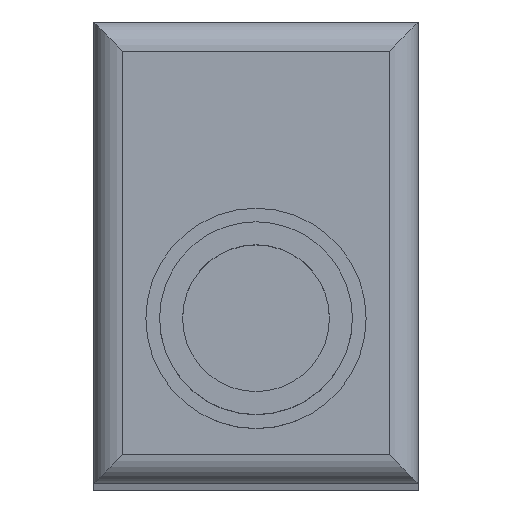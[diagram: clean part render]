
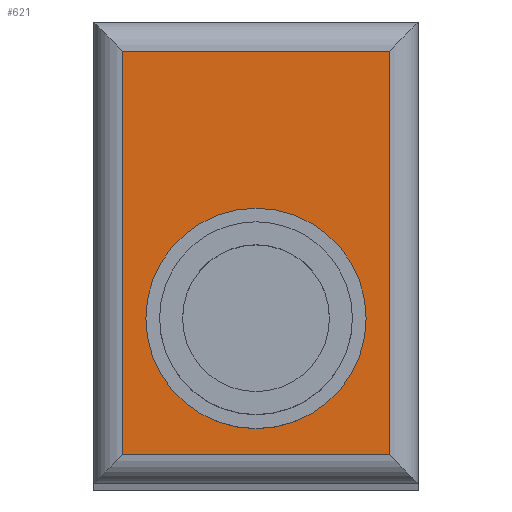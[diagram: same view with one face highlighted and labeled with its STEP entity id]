
A CAD part, top view. The second image highlights one B-rep face of the part: STEP entity #621.
In plain terms, the highlighted planar face has unit normal (0, 0, 1).
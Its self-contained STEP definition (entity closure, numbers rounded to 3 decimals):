
#81=DIRECTION('',(0.,-1.,0.));
#82=VECTOR('',#81,21.95);
#83=CARTESIAN_POINT('',(-7.25,10.975,99.));
#84=LINE('',#83,#82);
#100=DIRECTION('',(-1.,0.,0.));
#101=VECTOR('',#100,14.5);
#102=CARTESIAN_POINT('',(7.25,10.975,99.));
#103=LINE('',#102,#101);
#180=DIRECTION('',(1.,0.,0.));
#181=VECTOR('',#180,14.5);
#182=CARTESIAN_POINT('',(-7.25,-10.975,99.));
#183=LINE('',#182,#181);
#199=CARTESIAN_POINT('',(0.,-3.575,99.));
#200=DIRECTION('',(0.,0.,1.));
#201=DIRECTION('',(0.,-1.,0.));
#202=AXIS2_PLACEMENT_3D('',#199,#200,#201);
#204=CARTESIAN_POINT('',(0.,-3.575,99.));
#205=DIRECTION('',(0.,0.,1.));
#206=DIRECTION('',(0.,1.,0.));
#207=AXIS2_PLACEMENT_3D('',#204,#205,#206);
#209=DIRECTION('',(0.,1.,0.));
#210=VECTOR('',#209,21.95);
#211=CARTESIAN_POINT('',(7.25,-10.975,99.));
#212=LINE('',#211,#210);
#314=CARTESIAN_POINT('',(-7.25,10.975,99.));
#315=CARTESIAN_POINT('',(-7.25,-10.975,99.));
#316=VERTEX_POINT('',#314);
#317=VERTEX_POINT('',#315);
#318=CARTESIAN_POINT('',(7.25,-10.975,99.));
#319=VERTEX_POINT('',#318);
#322=CARTESIAN_POINT('',(7.25,10.975,99.));
#323=VERTEX_POINT('',#322);
#378=CARTESIAN_POINT('',(0.,-9.575,99.));
#379=CARTESIAN_POINT('',(0.,2.425,99.));
#380=VERTEX_POINT('',#378);
#381=VERTEX_POINT('',#379);
#603=CARTESIAN_POINT('',(0.,0.,99.));
#604=DIRECTION('',(0.,0.,1.));
#605=DIRECTION('',(1.,0.,0.));
#606=AXIS2_PLACEMENT_3D('',#603,#604,#605);
#607=PLANE('',#606);
#608=ORIENTED_EDGE('',*,*,#502,.F.);
#609=ORIENTED_EDGE('',*,*,#518,.F.);
#611=ORIENTED_EDGE('',*,*,#610,.F.);
#612=ORIENTED_EDGE('',*,*,#594,.F.);
#613=EDGE_LOOP('',(#608,#609,#611,#612));
#614=FACE_OUTER_BOUND('',#613,.F.);
#616=ORIENTED_EDGE('',*,*,#615,.T.);
#618=ORIENTED_EDGE('',*,*,#617,.T.);
#619=EDGE_LOOP('',(#616,#618));
#620=FACE_BOUND('',#619,.F.);
#621=ADVANCED_FACE('',(#614,#620),#607,.T.);
#203=CIRCLE('',#202,6.);
#208=CIRCLE('',#207,6.);
#502=EDGE_CURVE('',#316,#317,#84,.T.);
#518=EDGE_CURVE('',#323,#316,#103,.T.);
#594=EDGE_CURVE('',#317,#319,#183,.T.);
#610=EDGE_CURVE('',#319,#323,#212,.T.);
#615=EDGE_CURVE('',#380,#381,#203,.T.);
#617=EDGE_CURVE('',#381,#380,#208,.T.);
